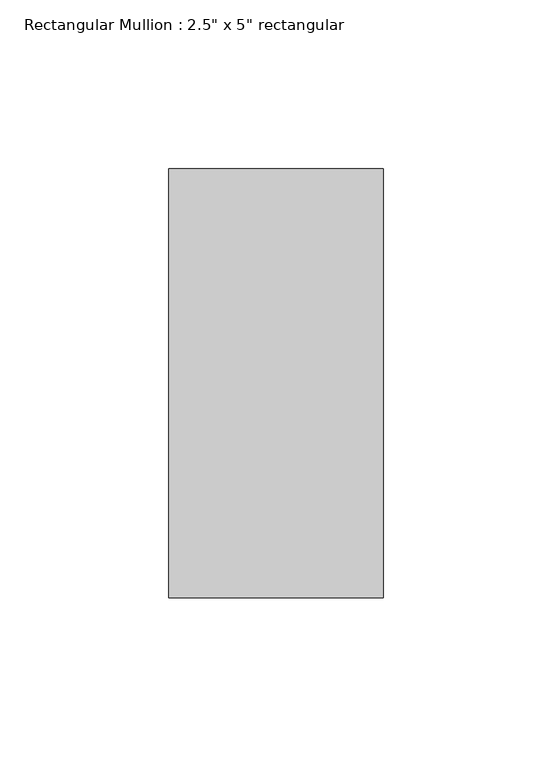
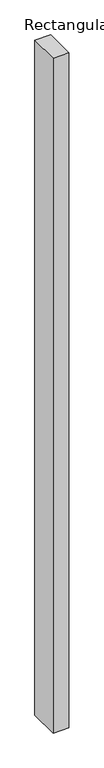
"""IFC4 building model written with IfcOpenShell, lengths in millimetres: member geometry."""

from ifc_helpers import new_model, si_unit, frame, origin, place, context, project, spatial, polyline, outline, extrude, source, transform, mapped, element, save


def member_78034a26(model_context):
    return source(origin(), model_context, "Body", "SweptSolid", [
        extrude(outline(polyline([(31.75, 63.5), (31.75, -63.5), (-31.75, -63.5), (-31.75, 63.5), (31.75, 63.5)])), frame((0.0, 0.0, -2882.9434951), z_axis=(0.0, 0.0, 1.0), x_axis=(1.0, 0.0, 0.0)), (0.0, 0.0, 1.0), 2882.9434951),
    ])


if __name__ == "__main__":
    model = new_model("IFC4")
    model_context = context("Model", 3, world=origin())
    ifc_project = project(units=[si_unit("LENGTHUNIT", "METRE", prefix="MILLI")], contexts=[model_context])
    site = spatial("IfcSite", under=ifc_project)
    building = spatial("IfcBuilding", under=site)
    placement = place(None, origin())
    member_shape = member_78034a26(model_context)
    element("IfcMember", 1, ObjectType="Rectangular Mullion : 2.5\" x 5\" rectangular", at=placement, inside=building, context=model_context, shape_type="MappedRepresentation", body=[
        mapped(member_shape, transform((0.0, 0.0, 0.0), x_axis=(1.0, 0.0, 0.0), y_axis=(0.0, 1.0, 0.0), z_axis=(0.0, 0.0, 1.0))),
    ])
    save(model, "model.ifc")
